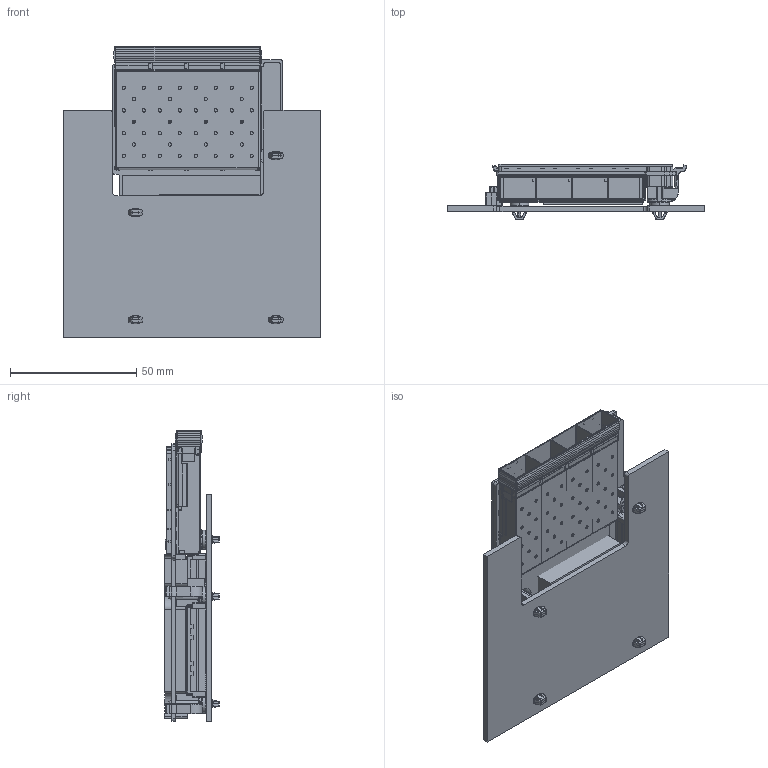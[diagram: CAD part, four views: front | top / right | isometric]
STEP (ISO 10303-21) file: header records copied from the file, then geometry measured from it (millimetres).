
FILE_DESCRIPTION((''),'2;1');
FILE_NAME('OCP-MZ-2_0-BD-ASSY_1X4SFP_8MM_ASM','2015-10-23T',('95030616'),(''),'PRO/ENGINEER BY PARAMETRIC TECHNOLOGY CORPORATION, 2013040','PRO/ENGINEER BY PARAMETRIC TECHNOLOGY CORPORATION, 2013040','');
FILE_SCHEMA(('AUTOMOTIVE_DESIGN { 1 0 10303 214 1 1 1 1 }'));
Products named in the file (19): OCP-2_0-BOARD_2; F01-LED-EVERLIGHT; CM-74754-0420-395450; 64POS-PLUG4; BTM-KEEPOUT-2MM; BTM-KEEPOUT-2_9MM; TOP-KEEPOUT-4_5MM; TOP-KEEPOUT-4_5MM-3; TOP-KEEPOUT-4MM; TOP-KEEPOUT-4MM-2; TOP-KEEPOUT-11_5MM; PORTION_MB_LEOPARD_E1_FILLED; FCI_61082_082402LF_LEOPARD_E1; FCI_61082_122402LF_LEOPARD_E1; 64POS-REC2; ASSY_PORTION_MB_LEOPARD_E1_ASM__ASM; F07-MEZZ-LATCH-LEFT-12MM; F07-MEZZ-LATCH-RIGHT-12MM; OCP-MZ-2_0-BD-ASSY_1X4SFP_8MM_ASM
Assembly tree (27 placements, depth 3):
  OCP-MZ-2_0-BD-ASSY_1X4SFP_8MM_ASM
    OCP-2_0-BOARD_2
    F01-LED-EVERLIGHT  x8
    CM-74754-0420-395450
    64POS-PLUG4
    BTM-KEEPOUT-2MM
    BTM-KEEPOUT-2_9MM
    TOP-KEEPOUT-4_5MM
    TOP-KEEPOUT-4_5MM-3
    TOP-KEEPOUT-4MM
    TOP-KEEPOUT-4MM-2
    TOP-KEEPOUT-11_5MM
    ASSY_PORTION_MB_LEOPARD_E1_ASM__ASM
      PORTION_MB_LEOPARD_E1_FILLED
      FCI_61082_082402LF_LEOPARD_E1
      FCI_61082_122402LF_LEOPARD_E1
      64POS-REC2
    F07-MEZZ-LATCH-LEFT-12MM
    F07-MEZZ-LATCH-RIGHT-12MM  x3
Bounding box: 101.72 x 21.77 x 115.25 mm (x, y, z)
Volume: 94798.3 mm3; surface area: 87016 mm2
Topology: 26 solids, 28 shells, 6207 faces, 17090 edges, 10862 vertices
Faces by surface type: plane 4480, cylinder 1047, bspline 394, sphere 137, cone 117, torus 32
Entity records: 227189 total; most frequent: CARTESIAN_POINT 43835, ORIENTED_EDGE 30732, DIRECTION 26785, EDGE_CURVE 15366, VECTOR 13031, LINE 13031, VERTEX_POINT 9874, PRESENTATION_STYLE_ASSIGNMENT 9529
